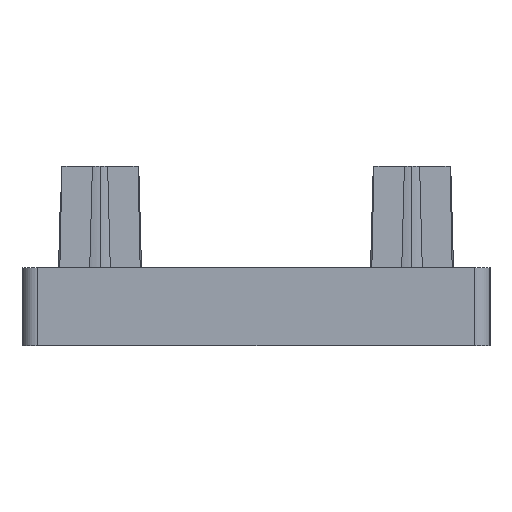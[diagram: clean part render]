
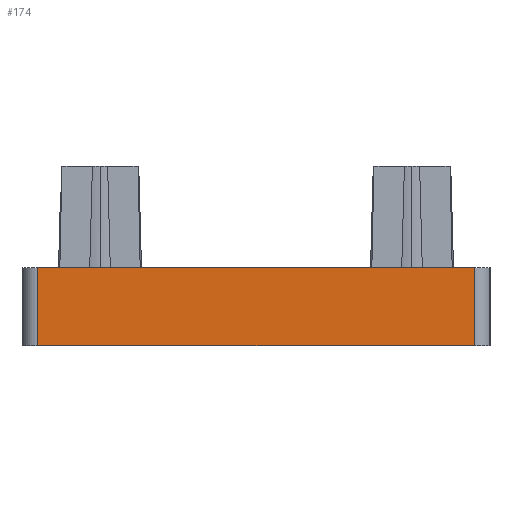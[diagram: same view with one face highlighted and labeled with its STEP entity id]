
A CAD part, left-side view. The second image highlights one B-rep face of the part: STEP entity #174.
In plain terms, the highlighted planar face has unit normal (-1, 0, 0).
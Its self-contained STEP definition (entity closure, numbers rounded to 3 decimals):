
#12 = CARTESIAN_POINT ( 'NONE',  ( -45., 14., 0. ) ) ;
#109 = VECTOR ( 'NONE', #1216, 1000. ) ;
#145 = LINE ( 'NONE', #1251, #206 ) ;
#174 = ADVANCED_FACE ( 'NONE', ( #242 ), #1908, .T. ) ;
#181 = ORIENTED_EDGE ( 'NONE', *, *, #2034, .F. ) ;
#206 = VECTOR ( 'NONE', #320, 1000. ) ;
#242 = FACE_OUTER_BOUND ( 'NONE', #855, .T. ) ;
#278 = AXIS2_PLACEMENT_3D ( 'NONE', #1176, #1919, #1350 ) ;
#309 = CARTESIAN_POINT ( 'NONE',  ( -45., 14., 0. ) ) ;
#320 = DIRECTION ( 'NONE',  ( 0., 0., 1. ) ) ;
#501 = LINE ( 'NONE', #309, #109 ) ;
#701 = DIRECTION ( 'NONE',  ( 0., -1., 0. ) ) ;
#721 = ORIENTED_EDGE ( 'NONE', *, *, #1494, .T. ) ;
#773 = VERTEX_POINT ( 'NONE', #2067 ) ;
#855 = EDGE_LOOP ( 'NONE', ( #181, #2189, #1467, #721 ) ) ;
#988 = DIRECTION ( 'NONE',  ( 0., -1., 0. ) ) ;
#1033 = EDGE_CURVE ( 'NONE', #773, #2195, #501, .T. ) ;
#1162 = LINE ( 'NONE', #2079, #1379 ) ;
#1176 = CARTESIAN_POINT ( 'NONE',  ( -45., 15., 0. ) ) ;
#1216 = DIRECTION ( 'NONE',  ( 0., 0., -1. ) ) ;
#1251 = CARTESIAN_POINT ( 'NONE',  ( -45., -14., 0. ) ) ;
#1350 = DIRECTION ( 'NONE',  ( 0., 0., 1. ) ) ;
#1371 = LINE ( 'NONE', #2159, #2042 ) ;
#1379 = VECTOR ( 'NONE', #988, 1000. ) ;
#1467 = ORIENTED_EDGE ( 'NONE', *, *, #1573, .T. ) ;
#1494 = EDGE_CURVE ( 'NONE', #2110, #2021, #145, .T. ) ;
#1573 = EDGE_CURVE ( 'NONE', #2195, #2110, #1162, .T. ) ;
#1724 = CARTESIAN_POINT ( 'NONE',  ( -45., -14., 5. ) ) ;
#1908 = PLANE ( 'NONE',  #278 ) ;
#1919 = DIRECTION ( 'NONE',  ( -1., 0., 0. ) ) ;
#1989 = CARTESIAN_POINT ( 'NONE',  ( -45., -14., 0. ) ) ;
#2021 = VERTEX_POINT ( 'NONE', #1724 ) ;
#2034 = EDGE_CURVE ( 'NONE', #773, #2021, #1371, .T. ) ;
#2042 = VECTOR ( 'NONE', #701, 1000. ) ;
#2067 = CARTESIAN_POINT ( 'NONE',  ( -45., 14., 5. ) ) ;
#2079 = CARTESIAN_POINT ( 'NONE',  ( -45., 15., 0. ) ) ;
#2110 = VERTEX_POINT ( 'NONE', #1989 ) ;
#2159 = CARTESIAN_POINT ( 'NONE',  ( -45., 15., 5. ) ) ;
#2189 = ORIENTED_EDGE ( 'NONE', *, *, #1033, .T. ) ;
#2195 = VERTEX_POINT ( 'NONE', #12 ) ;
